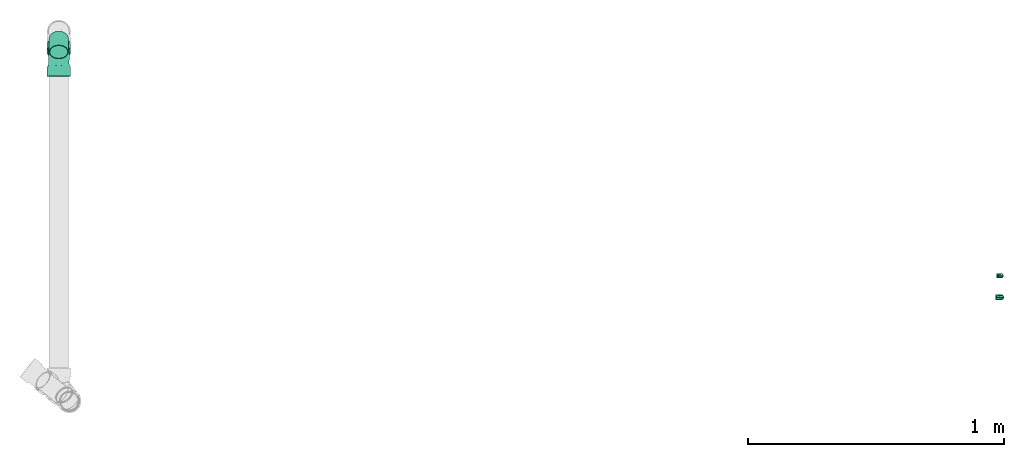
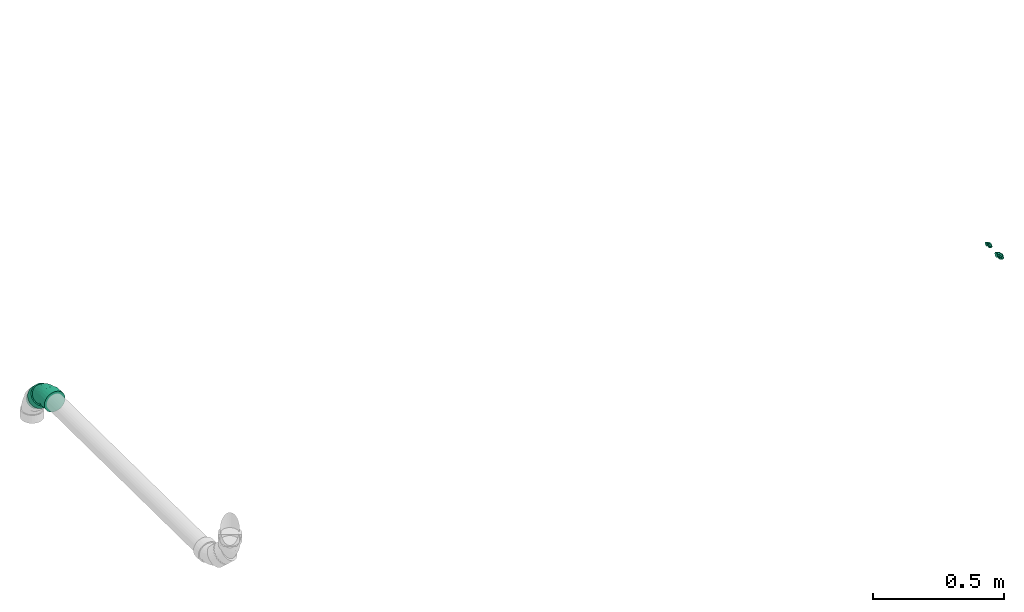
# One storey, part 2 of 4: 3 flow fittings, 1 flow segment.
"""IFC2X3 building model written with IfcOpenShell, lengths in millimetres."""

from ifc_helpers import new_model, entity, si_unit, converted_unit, derived_unit, direction, frame, origin_with_axes, origin_2d_with_axis, place, context, subcontext, project, spatial, hollow_circle, extrude, open_shell, surface_model, source, transform, mapped, type_object, element, save


model = new_model("IFC2X3")

# Units and contexts
model_context = context("Model", 3, precision=0.01, world=frame((0.0, 4.29681676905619e-09, 0.0)), true_north=direction((4.01073788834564e-13, 1.0)))
plan_context = context("Plan", 3, precision=0.01, world=frame((0.0, 4.29681676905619e-09, 0.0)), true_north=direction((4.01073788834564e-13, 1.0)))
body_context = subcontext(model_context, "Body", "Model", "MODEL_VIEW")
ifc_project = project(units=[converted_unit("PLANEANGLEUNIT", "DEGREE", entity("IfcPositiveLengthMeasure", 0.0174532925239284), si_unit("PLANEANGLEUNIT", "RADIAN"), dimensions=[0, 0, 0, 0, 0, 0, 0]), si_unit("AREAUNIT", "SQUARE_METRE"), si_unit("LENGTHUNIT", "METRE", prefix="MILLI"), si_unit("MASSUNIT", "GRAM", prefix="KILO"), si_unit("POWERUNIT", "WATT"), si_unit("PRESSUREUNIT", "PASCAL", prefix="KILO"), si_unit("FORCEUNIT", "NEWTON", prefix="KILO"), si_unit("ELECTRICVOLTAGEUNIT", "VOLT"), si_unit("ELECTRICCURRENTUNIT", "AMPERE"), si_unit("THERMODYNAMICTEMPERATUREUNIT", "DEGREE_CELSIUS"), si_unit("TIMEUNIT", "SECOND"), si_unit("VOLUMEUNIT", "CUBIC_METRE"), derived_unit("LINEARVELOCITYUNIT", [(si_unit("LENGTHUNIT", "METRE"), 1), (si_unit("TIMEUNIT", "SECOND"), -1)]), derived_unit("VOLUMETRICFLOWRATEUNIT", [(si_unit("VOLUMEUNIT", "CUBIC_METRE"), 1), (si_unit("TIMEUNIT", "SECOND"), -1)]), derived_unit("THERMALTRANSMITTANCEUNIT", [(si_unit("POWERUNIT", "WATT"), 1), (si_unit("THERMODYNAMICTEMPERATUREUNIT", "KELVIN"), -1), (si_unit("AREAUNIT", "SQUARE_METRE"), -1)]), derived_unit("SOUNDPRESSUREUNIT", [(si_unit("PRESSUREUNIT", "PASCAL"), 1)])], contexts=[model_context, plan_context])

# Site, building, storey
site_placement = place(None, frame((0.0, -4.29681676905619e-09, 0.0), z_axis=(0.0, 0.0, 1.0), x_axis=(1.0, 0.0, 0.0)))
site = spatial("IfcSite", under=ifc_project, at=site_placement, CompositionType="ELEMENT")
building_placement = place(site_placement, frame((0.0, 4.29681676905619e-09, 0.0), z_axis=(0.0, 0.0, 1.0), x_axis=(1.0, 0.0, 0.0)))
building = spatial("IfcBuilding", under=site, at=building_placement, Name="mc-building", CompositionType="ELEMENT")
storey_placement = place(building_placement, frame((0.0, 0.0, 200300.0), z_axis=(0.0, 0.0, 1.0), x_axis=(1.0, 0.0, 0.0)))
storey = spatial("IfcBuildingStorey", under=building, at=storey_placement, Name="Nivå C", CompositionType="ELEMENT", Elevation=200300.0)

# Flow fittings
pipe_fitting_type_1 = type_object("IfcPipeFittingType", Name="magi_sewer_bend_001", PredefinedType="BEND")
shared_shape_1 = source(origin_with_axes(), body_context, "Body", "SurfaceModel", [
    surface_model("IfcShellBasedSurfaceModel", [(-71.19035, -44.67407, -11.97038), (-71.19035, -11.97038, -44.67407), (-71.19035, -23.125, -40.05367), (-71.19035, -32.70369, -32.70369), (-71.19035, 0.0, -46.25), (-71.19035, -40.05367, -23.125), (-71.19035, -46.25, 0.0), (-71.19035, 11.97038, -44.67407), (-71.19035, 32.70369, -32.70369), (-71.19035, 23.125, -40.05367), (-71.19035, 44.67407, -11.97038), (-71.19035, 40.05367, -23.125), (-71.19035, -32.70369, 32.70369), (-71.19035, -44.67407, 11.97038), (-71.19035, -40.05367, 23.125), (-71.19035, 40.05367, 23.125), (-71.19035, -23.125, 40.05367), (-71.19035, -11.97038, 44.67407), (-71.19035, 0.0, 46.25), (-71.19035, 11.97038, 44.67407), (-71.19035, 44.67407, 11.97038), (-71.19035, 46.25, 0.0), (-71.19035, 23.125, 40.05367), (-71.19035, 32.70369, 32.70369), (-33.69036, 0.0, 46.25), (-33.69036, -11.97038, 44.67407), (-33.69036, -23.125, 40.05367), (-33.69036, -32.70369, 32.70369), (-33.69036, -40.05367, 23.125), (-33.69036, -44.67407, 11.97038), (-33.69036, 40.05367, 23.125), (-33.69036, -44.67407, -11.97038), (-33.69036, 23.125, 40.05367), (-33.69036, 32.70369, 32.70369), (-33.69036, 11.97038, 44.67407), (-33.69036, 44.67407, 11.97038), (-33.69036, 44.67407, -11.97038), (-33.69036, 46.25, 0.0), (-33.69036, -32.70369, -32.70369), (-33.69036, -40.05367, -23.125), (-33.69036, -23.125, -40.05367), (-33.69036, -11.97038, -44.67407), (-33.69036, 11.97038, -44.67407), (-33.69036, 32.70369, -32.70369), (-33.69036, 40.05367, -23.125), (-33.69036, 23.125, -40.05367), (-33.69036, 0.0, -46.25), (-33.69036, -46.25, 0.0), (22.80243, 78.43732, 23.125), (42.46076, 58.38185, -44.67407), (19.56815, 81.73693, 11.97038), (42.46076, 58.38185, 44.67407), (27.94743, 73.18838, 32.70369), (34.65252, 66.34784, 40.05367), (50.84003, 49.8333, -46.25), (19.56815, 81.73693, -11.97038), (27.94743, 73.18838, -32.70369), (22.80243, 78.43732, -23.125), (18.465, 82.86237, 0.0), (34.65252, 66.34784, -40.05367), (50.84003, 49.8333, 46.25), (59.21931, 41.28475, 44.67407), (67.02755, 33.31876, 40.05367), (73.73264, 26.47822, 32.70369), (82.11191, 17.92966, -11.97038), (78.87763, 21.22928, 23.125), (82.11191, 17.92966, 11.97038), (83.21507, 16.80423, 0.0), (67.02755, 33.31876, -40.05367), (59.21931, 41.28475, -44.67407), (73.73264, 26.47822, -32.70369), (78.87763, 21.22928, -23.125), (55.33158, -8.32036, -11.97038), (56.43474, -9.4458, 0.0), (55.33158, -8.32036, 11.97038), (52.09731, -5.02074, 23.125), (46.95231, 0.22819, 32.70369), (40.24722, 7.06874, 40.05367), (32.43898, 15.03472, 44.67407), (15.68043, 32.13183, 44.67407), (40.24722, 7.06874, -40.05367), (46.95231, 0.22819, -32.70369), (52.09731, -5.02074, -23.125), (32.43898, 15.03472, -44.67407), (15.68043, 32.13183, -44.67407), (24.0597, 23.58327, -46.25), (24.0597, 23.58327, 46.25), (-7.21218, 55.48691, 11.97038), (7.87219, 40.09781, 40.05367), (1.1671, 46.93835, 32.70369), (-3.9779, 52.18729, 23.125), (-7.21218, 55.48691, -11.97038), (1.1671, 46.93835, -32.70369), (7.87219, 40.09781, -40.05367), (-3.9779, 52.18729, -23.125), (-8.31533, 56.61235, 0.0), (-33.69036, 10.67629, -39.84444), (-33.69036, 0.0, -41.25), (-33.69036, 35.72355, -20.625), (-33.69036, 20.625, -35.72355), (-33.69036, -10.67629, -39.84444), (-33.69036, 29.16816, -29.16816), (-33.69036, 39.84444, -10.67629), (-33.69036, -29.16816, -29.16816), (-33.69036, -35.72355, -20.625), (-33.69036, -20.625, -35.72355), (-33.69036, -39.84444, -10.67629), (-33.69036, -41.25, 0.0), (-33.69036, -39.84444, 10.67629), (-33.69036, 41.25, 0.0), (-33.69036, 35.72355, 20.625), (-33.69036, 39.84444, 10.67629), (-33.69036, 10.67629, 39.84444), (-33.69036, 20.625, 35.72355), (-33.69036, 29.16816, 29.16816), (-33.69036, -35.72355, 20.625), (-33.69036, -29.16816, 29.16816), (-33.69036, -10.67629, 39.84444), (-33.69036, -20.625, 35.72355), (-33.69036, 0.0, 41.25), (16.5863, 31.20766, -39.84444), (49.06621, -1.92842, -20.625), (24.0597, 23.58327, -41.25), (3.64197, 44.41348, -29.16816), (9.62219, 38.31246, -35.72355), (-0.94681, 49.09496, -20.625), (51.95084, -4.87132, 10.67629), (38.49722, 8.85409, -35.72355), (44.47743, 2.75306, -29.16816), (31.53311, 15.95889, -39.84444), (51.95084, -4.87132, -10.67629), (52.93473, -5.87509, 0.0), (-3.83143, 52.03787, -10.67629), (-4.81533, 53.04164, 0.0), (-3.83143, 52.03787, 10.67629), (-0.94681, 49.09496, 20.625), (24.0597, 23.58327, 41.25), (3.64197, 44.41348, 29.16816), (9.62219, 38.31246, 35.72355), (16.5863, 31.20766, 39.84444), (44.47743, 2.75306, 29.16816), (49.06621, -1.92842, 20.625), (31.53311, 15.95889, 39.84444), (38.49722, 8.85409, 35.72355), (-7.14481, -35.72777, 14.35609), (7.32995, -30.55102, 16.59865), (-12.87635, -31.54537, 24.16721), (-13.29423, -38.59937, 0.0), (-2.06011, -37.13942, 0.0), (-8.51326, -38.03683, 7.07816), (-8.83557, -23.33594, 31.84843), (22.64503, -10.48028, 31.84843), (31.27732, -13.51442, 24.16721), (-16.13862, -15.14928, 37.71207), (4.23398, -10.36804, 37.20557), (1.39319, 24.64556, 38.48847), (7.35812, 19.27066, 40.63179), (-11.96589, -3.98116, 40.70749), (-3.82517, 9.36698, 41.10091), (-20.40998, 5.70175, 40.99697), (-11.51873, 28.20674, 33.65329), (-17.72979, 34.59788, 26.0191), (22.12978, 0.47831, 37.71207), (-15.44467, 17.16328, 38.55573), (27.46883, -25.08075, 0.0), (9.63843, -32.27431, 9.33183), (12.70436, -31.11008, 0.0), (-16.72343, 40.95187, 16.91808), (32.70549, -21.20441, 7.07816), (36.51356, -18.25947, 0.0), (-16.38194, 44.04857, 8.65146), (11.33216, 5.53301, 40.70749), (10.43457, -25.55188, 23.04229), (30.11187, -20.51333, 14.35609), (-18.0954, 44.31152, 0.0), (6.85392, -16.7837, 33.00514), (-11.96589, -3.98116, -40.70749), (-8.51326, -38.03683, -7.07816), (12.71291, -31.13102, -9.06926), (11.33216, 5.53301, -40.70749), (-18.24685, 16.6252, -38.48847), (-18.74422, 8.6113, -40.63179), (-11.55696, 37.11867, -26.0191), (22.64503, -10.48028, -31.84843), (-16.72344, 40.95187, -16.91808), (30.11187, -20.51333, -14.35609), (-19.135, 42.92431, -8.65146), (-0.98462, 23.0683, -38.55573), (-7.14481, -35.72777, -14.35609), (-11.51873, 28.20674, -33.65329), (-12.87635, -31.54537, -24.16721), (10.43457, -25.55188, -23.04229), (7.96341, -30.44103, -16.33607), (-8.83557, -23.33594, -31.84843), (6.85392, -16.7837, -33.00514), (-16.13862, -15.14928, -37.71207), (22.12978, 0.47831, -37.71207), (4.23398, -10.36804, -37.20557), (32.70549, -21.20441, -7.07816), (10.5844, 18.35886, -40.99697), (31.27732, -13.51442, -24.16721), (-3.82517, 9.36697, -41.10091)], [open_shell([[[0, 1, 2]], [[0, 2, 3]], [[1, 0, 4]], [[0, 3, 5]], [[4, 0, 6]], [[7, 8, 9]], [[8, 7, 4]], [[8, 10, 11]], [[10, 8, 4]], [[4, 6, 10]], [[6, 12, 10]], [[13, 14, 12]], [[10, 12, 15]], [[16, 17, 18]], [[16, 18, 12]], [[19, 12, 18]], [[10, 20, 21]], [[15, 20, 10]], [[15, 22, 23]], [[22, 15, 19]], [[12, 19, 15]], [[6, 13, 12]], [[24, 25, 26]], [[24, 26, 27]], [[27, 28, 29]], [[24, 27, 30]], [[27, 31, 30]], [[32, 30, 33]], [[30, 32, 34]], [[35, 36, 37]], [[30, 34, 24]], [[35, 30, 36]], [[27, 29, 31]], [[36, 30, 31]], [[38, 31, 39]], [[40, 41, 31]], [[40, 31, 38]], [[42, 31, 41]], [[36, 43, 44]], [[36, 31, 43]], [[43, 42, 45]], [[31, 42, 43]], [[41, 46, 42]], [[31, 29, 47]], [[36, 10, 37]], [[44, 11, 36]], [[9, 43, 45]], [[44, 43, 8]], [[7, 45, 42]], [[36, 11, 10]], [[10, 21, 37]], [[7, 9, 45]], [[8, 43, 9]], [[8, 11, 44]], [[4, 7, 42]], [[42, 46, 4]], [[46, 41, 1]], [[5, 39, 31]], [[39, 3, 38]], [[0, 31, 47]], [[1, 40, 2]], [[40, 1, 41]], [[40, 38, 2]], [[38, 3, 2]], [[39, 5, 3]], [[0, 5, 31]], [[47, 6, 0]], [[46, 1, 4]], [[29, 13, 47]], [[28, 14, 29]], [[16, 27, 26]], [[28, 27, 12]], [[17, 26, 25]], [[29, 14, 13]], [[13, 6, 47]], [[17, 16, 26]], [[12, 27, 16]], [[12, 14, 28]], [[18, 17, 25]], [[25, 24, 18]], [[33, 22, 32]], [[35, 15, 30]], [[33, 30, 23]], [[20, 35, 37]], [[32, 19, 34]], [[32, 22, 19]], [[19, 18, 34]], [[33, 23, 22]], [[30, 15, 23]], [[20, 15, 35]], [[37, 21, 20]], [[34, 18, 24]], [[48, 49, 50]], [[51, 48, 52]], [[49, 48, 51]], [[51, 52, 53]], [[54, 49, 51]], [[55, 56, 57]], [[56, 55, 58]], [[56, 49, 59]], [[56, 58, 50]], [[50, 49, 56]], [[51, 60, 54]], [[61, 62, 63]], [[60, 63, 54]], [[64, 65, 66]], [[63, 65, 64]], [[66, 67, 64]], [[54, 68, 69]], [[54, 63, 68]], [[70, 64, 71]], [[64, 70, 68]], [[63, 64, 68]], [[63, 60, 61]], [[72, 73, 74]], [[75, 72, 74]], [[76, 77, 78]], [[72, 75, 76]], [[76, 79, 80]], [[72, 81, 82]], [[81, 72, 80]], [[83, 84, 85]], [[80, 72, 76]], [[83, 80, 84]], [[76, 78, 86]], [[84, 80, 79]], [[87, 79, 88]], [[89, 90, 87]], [[89, 87, 88]], [[91, 79, 87]], [[84, 92, 93]], [[92, 84, 91]], [[92, 91, 94]], [[84, 79, 91]], [[87, 95, 91]], [[79, 76, 86]], [[84, 49, 85]], [[93, 59, 84]], [[57, 92, 94]], [[93, 92, 56]], [[55, 94, 91]], [[84, 59, 49]], [[49, 54, 85]], [[55, 57, 94]], [[56, 92, 57]], [[56, 59, 93]], [[58, 55, 91]], [[91, 95, 58]], [[95, 87, 50]], [[53, 88, 79]], [[88, 52, 89]], [[51, 79, 86]], [[50, 90, 48]], [[90, 50, 87]], [[90, 89, 48]], [[89, 52, 48]], [[88, 53, 52]], [[51, 53, 79]], [[86, 60, 51]], [[95, 50, 58]], [[78, 61, 86]], [[77, 62, 78]], [[65, 76, 75]], [[77, 76, 63]], [[66, 75, 74]], [[78, 62, 61]], [[61, 60, 86]], [[66, 65, 75]], [[63, 76, 65]], [[63, 62, 77]], [[67, 66, 74]], [[74, 73, 67]], [[81, 71, 82]], [[83, 68, 80]], [[81, 80, 70]], [[69, 83, 85]], [[82, 64, 72]], [[82, 71, 64]], [[64, 67, 72]], [[81, 70, 71]], [[80, 68, 70]], [[69, 68, 83]], [[85, 54, 69]], [[72, 67, 73]], [[96, 97, 98]], [[99, 96, 98]], [[100, 98, 97]], [[101, 99, 98]], [[102, 98, 100]], [[103, 104, 105]], [[100, 105, 104]], [[104, 106, 100]], [[106, 102, 100]], [[107, 108, 106]], [[109, 102, 106]], [[110, 111, 109]], [[108, 110, 106]], [[112, 113, 114]], [[108, 114, 110]], [[114, 108, 112]], [[115, 116, 108]], [[117, 108, 116]], [[118, 117, 116]], [[117, 112, 108]], [[117, 119, 112]], [[109, 106, 110]], [[120, 121, 122]], [[123, 120, 124]], [[121, 120, 125]], [[125, 120, 123]], [[121, 125, 126]], [[127, 121, 128]], [[127, 129, 122]], [[121, 127, 122]], [[121, 126, 130]], [[130, 126, 131]], [[125, 132, 126]], [[133, 134, 135]], [[136, 133, 135]], [[137, 138, 139]], [[135, 137, 136]], [[139, 136, 137]], [[126, 140, 141]], [[126, 133, 140]], [[140, 142, 143]], [[142, 140, 136]], [[133, 136, 140]], [[133, 126, 132]], [[144, 145, 146]], [[147, 148, 149]], [[118, 116, 150]], [[151, 152, 140]], [[153, 150, 154]], [[116, 146, 150]], [[139, 155, 156]], [[117, 118, 153]], [[157, 158, 159]], [[119, 117, 157]], [[114, 160, 161]], [[143, 142, 162]], [[159, 112, 119]], [[113, 163, 160]], [[108, 147, 149]], [[138, 137, 160]], [[164, 165, 166]], [[160, 114, 113]], [[146, 116, 115]], [[110, 161, 167]], [[111, 110, 167]], [[126, 168, 169]], [[170, 109, 111]], [[164, 168, 165]], [[165, 149, 148]], [[113, 112, 163]], [[136, 156, 171]], [[140, 143, 151]], [[135, 134, 167]], [[171, 142, 136]], [[172, 150, 146]], [[173, 141, 152]], [[158, 156, 155]], [[151, 143, 162]], [[144, 146, 115]], [[168, 126, 173]], [[151, 172, 152]], [[159, 163, 112]], [[140, 152, 141]], [[111, 167, 170]], [[115, 108, 144]], [[174, 170, 133]], [[150, 175, 154]], [[134, 170, 167]], [[154, 171, 157]], [[135, 167, 161]], [[154, 162, 171]], [[135, 161, 137]], [[158, 157, 171]], [[139, 138, 155]], [[155, 160, 163]], [[153, 157, 117]], [[110, 114, 161]], [[173, 126, 141]], [[173, 152, 172]], [[175, 172, 151]], [[137, 161, 160]], [[160, 155, 138]], [[158, 155, 163]], [[150, 153, 118]], [[157, 153, 154]], [[171, 162, 142]], [[151, 162, 154]], [[108, 107, 147]], [[165, 144, 149]], [[108, 149, 144]], [[148, 166, 165]], [[145, 144, 165]], [[145, 173, 172]], [[169, 168, 164]], [[169, 131, 126]], [[165, 168, 173]], [[171, 156, 158]], [[136, 139, 156]], [[173, 145, 165]], [[146, 145, 172]], [[157, 159, 119]], [[163, 159, 158]], [[172, 175, 150]], [[151, 154, 175]], [[133, 170, 134]], [[170, 174, 109]], [[100, 97, 176]], [[148, 177, 178]], [[122, 129, 179]], [[180, 181, 96]], [[98, 182, 101]], [[127, 128, 183]], [[184, 182, 98]], [[121, 130, 185]], [[102, 186, 184]], [[124, 120, 187]], [[106, 177, 147]], [[99, 180, 96]], [[177, 106, 188]], [[123, 189, 182]], [[190, 191, 192]], [[190, 188, 104]], [[103, 105, 193]], [[194, 191, 193]], [[106, 104, 188]], [[190, 103, 193]], [[195, 105, 100]], [[196, 179, 129]], [[132, 125, 184]], [[197, 195, 176]], [[109, 174, 186]], [[193, 191, 190]], [[133, 132, 186]], [[197, 176, 179]], [[123, 124, 189]], [[184, 98, 102]], [[125, 182, 184]], [[195, 193, 105]], [[187, 189, 124]], [[181, 176, 97]], [[189, 187, 180]], [[101, 189, 99]], [[130, 169, 198]], [[199, 120, 122]], [[196, 129, 127]], [[192, 185, 178]], [[183, 128, 200]], [[197, 196, 183]], [[200, 128, 121]], [[201, 199, 179]], [[191, 200, 185]], [[201, 179, 176]], [[198, 169, 164]], [[199, 187, 120]], [[201, 181, 180]], [[177, 188, 178]], [[103, 190, 104]], [[183, 194, 197]], [[185, 200, 121]], [[132, 184, 186]], [[191, 183, 200]], [[125, 123, 182]], [[101, 182, 189]], [[189, 180, 99]], [[201, 180, 187]], [[176, 195, 100]], [[193, 195, 197]], [[183, 196, 127]], [[179, 196, 197]], [[147, 177, 148]], [[147, 107, 106]], [[192, 178, 188]], [[198, 178, 185]], [[178, 164, 166]], [[130, 131, 169]], [[178, 198, 164]], [[130, 198, 185]], [[176, 181, 201]], [[97, 96, 181]], [[179, 199, 122]], [[187, 199, 201]], [[191, 194, 183]], [[193, 197, 194]], [[109, 186, 102]], [[186, 174, 133]], [[190, 192, 188]], [[185, 192, 191]], [[148, 178, 166]]])]),
])
flow_fitting_1_placement = place(storey_placement, frame((324436.0678, 464328.99824, 9083.59709), z_axis=(1.0, 0.0, 0.0), x_axis=(0.0, -0.707106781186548, 0.707106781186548)))
element("IfcFlowFitting", 1, at=flow_fitting_1_placement, inside=storey, type_object=pipe_fitting_type_1, Name="magi_sewer_bend_001", context=body_context, shape_type="MappedRepresentation", body=[
    mapped(shared_shape_1, transform((0.0, 0.0, 0.0), scale=1.0)),
])
pipe_fitting_type_2 = type_object("IfcPipeFittingType", Name="magi_pipe_elbow_short_001", PredefinedType="BEND")
shared_shape_2 = source(origin_with_axes(), body_context, "Body", "SurfaceModel", [
    surface_model("IfcShellBasedSurfaceModel", [(-18.0, 4.5, -7.79423), (-18.0, 2.32937, -8.69333), (-18.0, 0.0, -9.0), (-18.0, -6.36396, -6.36396), (-18.0, 8.69333, -2.32937), (-18.0, 7.79423, -4.5), (-18.0, 6.36396, -6.36396), (-18.0, -4.5, -7.79423), (-18.0, -2.32937, -8.69333), (-18.0, -7.79423, -4.5), (-18.0, -8.69333, -2.32937), (-18.0, -9.0, 0.0), (-18.0, 8.69333, 2.32937), (-18.0, -8.69333, 2.32937), (-18.0, 7.79423, 4.5), (-18.0, 6.36396, 6.36396), (-18.0, 2.32937, 8.69333), (-18.0, 4.5, 7.79423), (-18.0, -7.79423, 4.5), (-18.0, -6.36396, 6.36396), (-18.0, -4.5, 7.79423), (-18.0, -2.32937, 8.69333), (-18.0, 0.0, 9.0), (-18.0, 9.0, 0.0), (0.0, 18.0, -9.0), (-2.32937, 18.0, -8.69333), (-4.5, 18.0, -7.79423), (6.36396, 18.0, -6.36396), (-7.79423, 18.0, -4.5), (-8.69333, 18.0, -2.32937), (-6.36396, 18.0, -6.36396), (8.69333, 18.0, 2.32937), (9.0, 18.0, 0.0), (2.32937, 18.0, -8.69333), (4.5, 18.0, -7.79423), (8.69333, 18.0, -2.32937), (7.79423, 18.0, -4.5), (-8.69333, 18.0, 2.32937), (-6.36396, 18.0, 6.36396), (-7.79423, 18.0, 4.5), (-4.5, 18.0, 7.79423), (-2.32937, 18.0, 8.69333), (7.79423, 18.0, 4.5), (6.36396, 18.0, 6.36396), (2.32937, 18.0, 8.69333), (4.5, 18.0, 7.79423), (0.0, 18.0, 9.0), (-9.0, 18.0, 0.0), (-16.09014, -8.48825, 0.0), (-10.51068, -2.97249, 7.92278), (-10.36056, -6.95302, 0.0), (-4.5, -5.38269, 0.0), (0.44134, -0.44134, 0.0), (2.91201, 2.02933, 0.0), (-2.70211, 1.18586, 7.65564), (-2.02933, -2.91201, 0.0), (-14.18028, -7.97651, 0.0), (-7.11648, 7.11648, 8.61373), (-4.93977, 9.63211, 8.64898), (2.97249, 10.51068, 7.92278), (2.01286, 5.84889, 7.1903), (5.38269, 4.5, 0.0), (-5.73616, -2.07922, 7.10204), (8.48825, 16.09014, 0.0), (7.97651, 14.18028, 0.0), (-9.63211, 4.93977, 8.64898), (-10.31802, 14.81802, 0.0), (-14.81802, 10.31802, 0.0), (-11.63604, 11.63604, 0.0), (6.95302, 10.36056, 0.0), (-10.51068, -2.97249, -7.92278), (-4.93977, 9.63211, -8.64898), (0.8585, 4.1248, -7.1903), (-2.68792, 2.14037, -8.03971), (2.97249, 10.51068, -7.92278), (-13.67048, 7.29638, -6.27272), (-8.50355, 2.18787, -8.98901), (-9.83427, 8.11209, -7.36254)], [open_shell([[[0, 1, 2]], [[0, 2, 3]], [[0, 4, 5]], [[6, 0, 5]], [[4, 0, 3]], [[7, 3, 8]], [[3, 2, 8]], [[9, 10, 3]], [[11, 3, 10]], [[3, 11, 4]], [[11, 12, 4]], [[12, 11, 13]], [[14, 12, 15]], [[16, 17, 15]], [[13, 15, 12]], [[15, 18, 16]], [[18, 19, 16]], [[15, 13, 18]], [[20, 21, 19]], [[22, 19, 21]], [[16, 19, 22]], [[23, 4, 12]], [[24, 25, 26]], [[27, 24, 26]], [[28, 29, 26]], [[28, 26, 30]], [[31, 32, 26]], [[33, 27, 34]], [[33, 24, 27]], [[27, 35, 36]], [[35, 27, 32]], [[26, 32, 27]], [[26, 29, 37]], [[31, 26, 37]], [[38, 37, 39]], [[38, 40, 41]], [[37, 38, 31]], [[41, 42, 38]], [[41, 43, 42]], [[42, 31, 38]], [[43, 44, 45]], [[44, 43, 46]], [[46, 43, 41]], [[37, 29, 47]], [[13, 48, 18]], [[49, 50, 51]], [[52, 53, 54]], [[54, 55, 52]], [[20, 19, 56]], [[18, 56, 19]], [[57, 54, 58]], [[20, 50, 21]], [[22, 21, 50]], [[59, 60, 61]], [[59, 58, 60]], [[55, 54, 62]], [[22, 50, 49]], [[22, 49, 16]], [[62, 49, 51]], [[62, 51, 55]], [[42, 63, 31]], [[49, 17, 16]], [[64, 63, 42]], [[12, 65, 23]], [[14, 15, 49]], [[54, 65, 62]], [[17, 49, 15]], [[57, 58, 66]], [[67, 57, 68]], [[53, 60, 54]], [[44, 46, 69]], [[69, 45, 44]], [[38, 59, 40]], [[41, 59, 46]], [[43, 45, 64]], [[54, 60, 58]], [[64, 45, 69]], [[61, 60, 53]], [[31, 63, 32]], [[59, 61, 69]], [[58, 47, 66]], [[20, 56, 50]], [[54, 57, 65]], [[49, 65, 14]], [[37, 47, 58]], [[64, 42, 43]], [[39, 37, 58]], [[14, 65, 12]], [[38, 39, 59]], [[13, 11, 48]], [[39, 58, 59]], [[48, 56, 18]], [[40, 59, 41]], [[59, 69, 46]], [[49, 62, 65]], [[57, 67, 65]], [[66, 68, 57]], [[67, 23, 65]], [[70, 50, 2]], [[71, 72, 73]], [[74, 71, 28]], [[70, 1, 0]], [[70, 51, 50]], [[35, 32, 63]], [[75, 6, 5]], [[75, 4, 23]], [[5, 4, 75]], [[51, 76, 55]], [[75, 23, 67]], [[70, 6, 75]], [[48, 11, 10]], [[7, 56, 3]], [[2, 50, 8]], [[51, 70, 76]], [[56, 7, 50]], [[7, 8, 50]], [[70, 2, 1]], [[66, 47, 71]], [[52, 72, 53]], [[6, 70, 0]], [[70, 75, 76]], [[73, 52, 55]], [[71, 68, 66]], [[61, 53, 72]], [[34, 64, 69]], [[29, 71, 47]], [[30, 74, 28]], [[56, 9, 3]], [[26, 25, 74]], [[63, 64, 36]], [[56, 48, 9]], [[26, 74, 30]], [[9, 48, 10]], [[24, 74, 25]], [[33, 69, 24]], [[28, 71, 29]], [[27, 64, 34]], [[69, 33, 34]], [[68, 71, 77]], [[74, 24, 69]], [[36, 35, 63]], [[61, 72, 74]], [[61, 74, 69]], [[67, 77, 75]], [[74, 72, 71]], [[36, 64, 27]], [[76, 77, 73]], [[75, 77, 76]], [[77, 71, 73]], [[55, 76, 73]], [[72, 52, 73]], [[77, 67, 68]]])]),
])
flow_fitting_2_placement = place(storey_placement, frame((328120.59277, 463477.7375, 9010.0), z_axis=(0.0, -1.0, 0.0), x_axis=(0.0, 0.0, 1.0)))
element("IfcFlowFitting", 2, at=flow_fitting_2_placement, inside=storey, type_object=pipe_fitting_type_2, Name="magi_pipe_elbow_short_001", context=body_context, shape_type="MappedRepresentation", body=[
    mapped(shared_shape_2, transform((0.0, 0.0, 0.0), scale=1.0)),
])
shared_shape_3 = source(origin_with_axes(), body_context, "Body", "SurfaceModel", [
    surface_model("IfcShellBasedSurfaceModel", [(-22.0, 0.0, -11.0), (-22.0, -2.84701, -10.62518), (-22.0, 2.84701, -10.62518), (-22.0, 5.5, -9.52628), (-22.0, 7.77817, -7.77817), (-22.0, 10.62518, -2.84701), (-22.0, 9.52628, -5.5), (-22.0, 9.52628, 5.5), (-22.0, 10.62518, 2.84701), (-22.0, 7.77817, 7.77817), (-22.0, -2.84701, 10.62518), (-22.0, 0.0, 11.0), (-22.0, -5.5, 9.52628), (-22.0, -7.77817, -7.77817), (-22.0, -9.52628, -5.5), (-22.0, -5.5, -9.52628), (-22.0, -10.62518, -2.84701), (-22.0, -9.52628, 5.5), (-22.0, -11.0, 0.0), (-22.0, 2.84701, 10.62518), (-22.0, 5.5, 9.52628), (-22.0, -7.77817, 7.77817), (-22.0, -10.62518, 2.84701), (-22.0, 11.0, 0.0), (-2.84701, 22.0, -10.62518), (2.84701, 22.0, -10.62518), (0.0, 22.0, -11.0), (-7.77817, 22.0, -7.77817), (-5.5, 22.0, -9.52628), (-9.52628, 22.0, -5.5), (-10.62518, 22.0, -2.84701), (5.5, 22.0, -9.52628), (9.52628, 22.0, -5.5), (7.77817, 22.0, -7.77817), (10.62518, 22.0, -2.84701), (9.52628, 22.0, 5.5), (11.0, 22.0, 0.0), (-10.62518, 22.0, 2.84701), (-7.77817, 22.0, 7.77817), (-9.52628, 22.0, 5.5), (-5.5, 22.0, 9.52628), (-2.84701, 22.0, 10.62518), (7.77817, 22.0, 7.77817), (10.62518, 22.0, 2.84701), (5.5, 22.0, 9.52628), (0.0, 22.0, 11.0), (2.84701, 22.0, 10.62518), (-11.0, 22.0, 0.0), (-18.49859, -10.0618, 0.0), (-10.24859, -7.85122, 0.0), (-9.34901, -7.11844, 5.09685), (-14.89307, -7.23891, 7.45305), (5.78852, 8.4802, 6.46058), (2.12041, 3.18539, 6.87037), (3.55913, 2.48029, 0.0), (1.01335, 10.61047, 10.36705), (-14.99718, -9.1236, 0.0), (5.14392, 14.4409, 9.10203), (-11.75269, -3.39299, 9.59306), (7.85122, 10.24859, 0.0), (9.1236, 14.99718, 0.0), (-8.06006, 14.23023, 9.19276), (-3.72868, 16.47919, 10.60733), (-15.76443, 3.42828, 10.73288), (-8.21542, -0.66336, 10.02562), (-12.61091, 18.11091, 0.0), (-14.22183, 14.22183, 0.0), (-5.37587, -4.55716, 5.82482), (6.57884, 5.5, 0.0), (-15.57958, 10.44534, 6.62476), (-10.44966, 10.29499, 9.49395), (10.0618, 18.49859, 0.0), (-7.4322, 4.10078, 10.94703), (-2.22445, -1.03187, 7.15282), (0.53942, -0.53942, 0.0), (-3.02405, 7.17381, 10.80133), (-18.11091, 12.61091, 0.0), (-2.48029, -3.55913, 0.0), (-5.5, -6.57884, 0.0), (-9.08269, -0.07613, -10.40197), (-2.22445, -1.03187, -7.15282), (-6.00435, -4.17546, -6.76221), (-8.06006, 14.23023, -9.19276), (-15.76443, 3.42828, -10.73288), (-11.75269, -3.39299, -9.59306), (-15.57958, 10.44534, -6.62476), (-7.4322, 4.10078, -10.94703), (-10.44966, 10.29499, -9.49395), (2.12041, 3.18539, -6.87037), (-3.02405, 7.17381, -10.80133), (-14.89307, -7.23891, -7.45305), (5.14392, 14.4409, -9.10203), (-3.72868, 16.47919, -10.60733), (1.01335, 10.61047, -10.36705), (5.78852, 8.4802, -6.46058), (-9.34901, -7.11844, -5.09685)], [open_shell([[[0, 1, 2]], [[3, 2, 4]], [[5, 6, 4]], [[7, 8, 9]], [[10, 11, 12]], [[4, 2, 1]], [[5, 4, 1]], [[13, 14, 15]], [[1, 15, 14]], [[14, 16, 1]], [[17, 1, 16]], [[18, 17, 16]], [[5, 1, 17]], [[17, 8, 5]], [[19, 20, 9]], [[8, 19, 9]], [[19, 8, 17]], [[17, 21, 19]], [[17, 18, 22]], [[19, 21, 12]], [[11, 19, 12]], [[23, 5, 8]], [[24, 25, 26]], [[27, 24, 28]], [[27, 29, 30]], [[25, 24, 27]], [[25, 27, 30]], [[31, 32, 33]], [[32, 31, 25]], [[25, 34, 32]], [[34, 25, 35]], [[34, 35, 36]], [[35, 25, 30]], [[30, 37, 35]], [[38, 37, 39]], [[38, 40, 41]], [[38, 41, 37]], [[35, 37, 41]], [[41, 42, 35]], [[43, 36, 35]], [[44, 45, 46]], [[44, 42, 41]], [[44, 41, 45]], [[37, 30, 47]], [[17, 22, 48]], [[49, 50, 51]], [[52, 53, 54]], [[52, 55, 53]], [[51, 21, 56]], [[21, 17, 56]], [[41, 57, 45]], [[11, 51, 58]], [[51, 10, 12]], [[57, 59, 60]], [[61, 55, 62]], [[63, 58, 64]], [[65, 66, 61]], [[51, 11, 10]], [[11, 58, 19]], [[67, 58, 50]], [[54, 68, 52]], [[63, 9, 20]], [[22, 18, 48]], [[23, 8, 69]], [[7, 9, 63]], [[62, 40, 38]], [[19, 58, 63]], [[7, 69, 8]], [[63, 20, 19]], [[59, 52, 68]], [[60, 42, 44]], [[57, 46, 45]], [[69, 70, 66]], [[52, 59, 57]], [[39, 62, 38]], [[60, 35, 42]], [[44, 57, 60]], [[44, 46, 57]], [[21, 51, 12]], [[43, 71, 36]], [[51, 56, 49]], [[70, 69, 72]], [[73, 74, 53]], [[75, 72, 73]], [[7, 63, 69]], [[47, 65, 37]], [[35, 71, 43]], [[55, 57, 62]], [[52, 57, 55]], [[41, 40, 62]], [[60, 71, 35]], [[37, 61, 39]], [[48, 56, 17]], [[61, 62, 39]], [[62, 57, 41]], [[69, 63, 72]], [[53, 75, 73]], [[69, 66, 76]], [[67, 64, 58]], [[75, 53, 55]], [[67, 77, 73]], [[55, 61, 75]], [[70, 75, 61]], [[50, 49, 78]], [[67, 50, 78]], [[51, 50, 58]], [[77, 74, 73]], [[73, 72, 64]], [[67, 78, 77]], [[73, 64, 67]], [[63, 64, 72]], [[37, 65, 61]], [[75, 70, 72]], [[23, 69, 76]], [[66, 70, 61]], [[53, 74, 54]], [[79, 80, 81]], [[65, 30, 82]], [[3, 4, 83]], [[2, 84, 0]], [[5, 23, 85]], [[14, 48, 16]], [[83, 6, 85]], [[85, 6, 5]], [[86, 85, 87]], [[83, 86, 79]], [[83, 84, 2]], [[48, 18, 16]], [[80, 77, 81]], [[88, 80, 89]], [[14, 13, 56]], [[15, 1, 90]], [[91, 31, 60]], [[13, 15, 90]], [[90, 1, 0]], [[84, 90, 0]], [[13, 90, 56]], [[29, 92, 82]], [[6, 83, 4]], [[85, 23, 76]], [[80, 88, 74]], [[82, 66, 65]], [[93, 82, 92]], [[29, 82, 30]], [[29, 27, 92]], [[27, 28, 92]], [[71, 60, 32]], [[91, 92, 24]], [[56, 48, 14]], [[34, 36, 71]], [[28, 24, 92]], [[94, 88, 93]], [[26, 91, 24]], [[31, 91, 25]], [[83, 2, 3]], [[94, 93, 91]], [[33, 60, 31]], [[89, 93, 88]], [[25, 91, 26]], [[71, 32, 34]], [[92, 91, 93]], [[59, 91, 60]], [[86, 83, 85]], [[95, 78, 49]], [[33, 32, 60]], [[66, 87, 85]], [[94, 59, 68]], [[89, 80, 86]], [[49, 56, 90]], [[94, 54, 88]], [[59, 94, 91]], [[95, 90, 84]], [[87, 89, 86]], [[82, 93, 89]], [[81, 78, 95]], [[90, 95, 49]], [[81, 95, 84]], [[79, 81, 84]], [[82, 87, 66]], [[83, 79, 84]], [[80, 79, 86]], [[77, 80, 74]], [[77, 78, 81]], [[47, 30, 65]], [[66, 85, 76]], [[89, 87, 82]], [[54, 94, 68]], [[54, 74, 88]]])]),
])
flow_fitting_3_placement = place(storey_placement, frame((328120.59277, 463393.4875, 9012.0), z_axis=(0.0, -1.0, 0.0), x_axis=(0.0, 0.0, 1.0)))
element("IfcFlowFitting", 3, at=flow_fitting_3_placement, inside=storey, type_object=pipe_fitting_type_2, Name="magi_pipe_elbow_short_001", context=body_context, shape_type="MappedRepresentation", body=[
    mapped(shared_shape_3, transform((0.0, 0.0, 0.0), scale=1.0)),
])

# Flow segment
pipe_segment_type = type_object("IfcPipeSegmentType", Name="MA", PredefinedType="RIGIDSEGMENT")
shared_shape_4 = source(origin_with_axes(), body_context, "Body", "SweptSolid", [
    extrude(hollow_circle(Radius=37.5, WallThickness=2.0, at=origin_2d_with_axis()), frame((0.0, 0.0, 0.0), z_axis=(1.0, 0.0, 0.0), x_axis=(0.0, 1.0, 0.0)), (0.0, 0.0, 1.0), 77.0),
])
flow_segment_placement = place(storey_placement, frame((324436.0678, 464407.28876, 9005.30657000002), z_axis=(0.0, 0.707106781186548, 0.707106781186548), x_axis=(0.0, -0.707106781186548, 0.707106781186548)))
element("IfcFlowSegment", 4, at=flow_segment_placement, inside=storey, type_object=pipe_segment_type, Name="MA", context=body_context, shape_type="MappedRepresentation", body=[
    mapped(shared_shape_4, transform((0.0, 0.0, 0.0), scale=1.0)),
])

save(model, "model.ifc")
